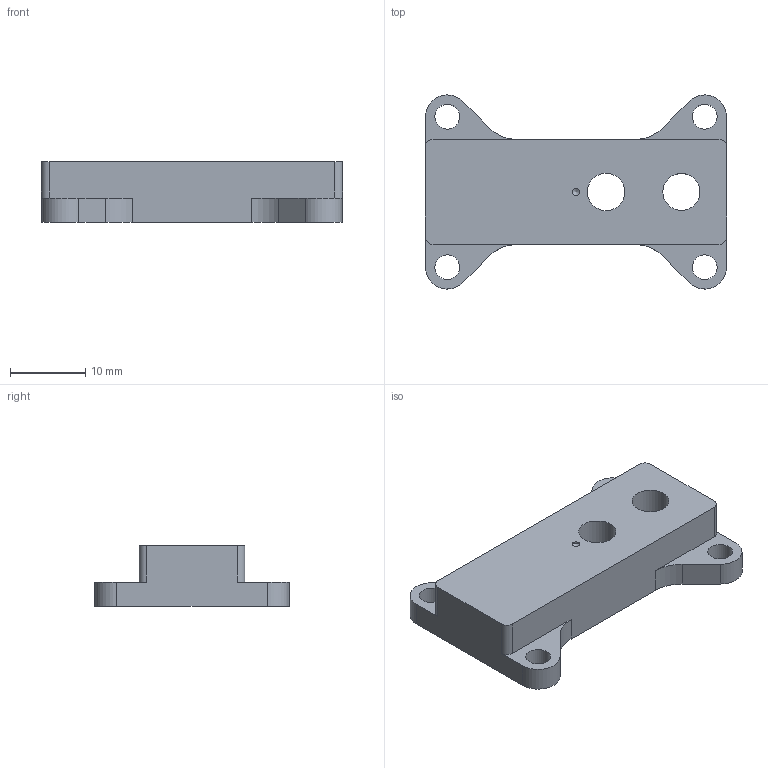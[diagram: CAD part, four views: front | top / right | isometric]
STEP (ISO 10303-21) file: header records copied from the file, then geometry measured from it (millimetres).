
FILE_DESCRIPTION(/* description */ ('TripodAdapter'),/* implementation_level */ '2;1');
FILE_NAME(/* name */ 'KSM_310-24-00-00-03_TripodAdapter.stp',/* time_stamp */ '2026-06-21T21:47:56+02:00',/* author */ ('khw'),/* organization */ ('TIS/ Germany'),/* preprocessor_version */ 'ST-DEVELOPER v20',/* originating_system */ 'Autodesk Inventor 2025',/* authorisation */ '6767,5 mm^3');
FILE_SCHEMA (('AUTOMOTIVE_DESIGN { 1 0 10303 214 3 1 1 }'));
Length unit declared in the file: millimetre
Products named in the file (1): KSM_310-24-00-00-03_TripodAdapter
Bounding box: 40 x 25.79 x 8 mm (x, y, z)
Volume: 4572.5 mm3; surface area: 2620.3 mm2
Topology: 1 solids, 1 shells, 34 faces, 95 edges, 63 vertices
Faces by surface type: cylinder 19, plane 14, cone 1
Full cylindrical faces by diameter (mm): 1 x1, 3.3 x4, 4.917 x1, 4.978 x1
Entity records: 1171 total; most frequent: DIRECTION 202, CARTESIAN_POINT 192, ORIENTED_EDGE 188, EDGE_CURVE 94, AXIS2_PLACEMENT_3D 73, VERTEX_POINT 63, LINE 56, VECTOR 56
